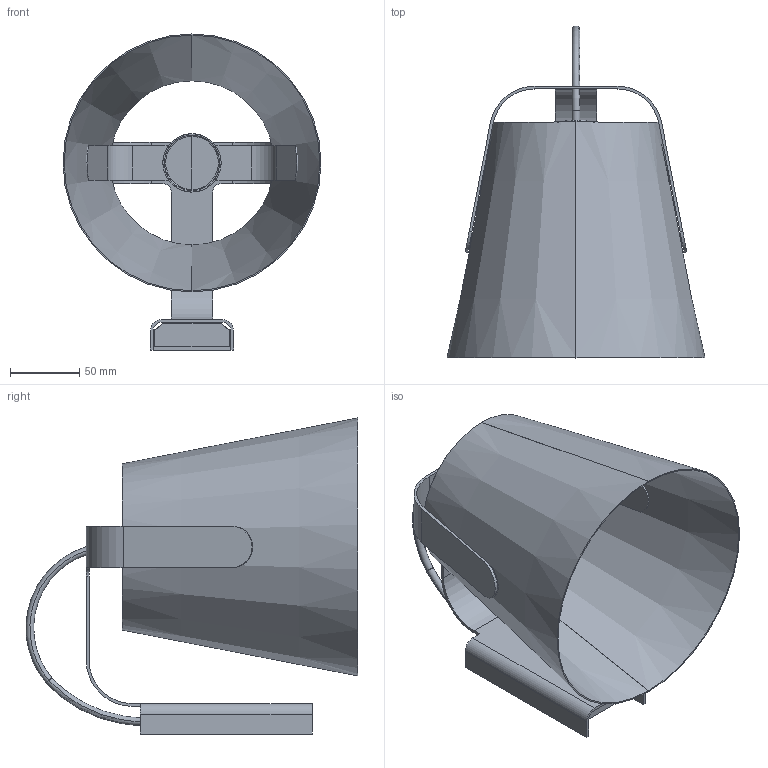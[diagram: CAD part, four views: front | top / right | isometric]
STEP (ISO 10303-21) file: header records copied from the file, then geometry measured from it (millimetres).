
FILE_DESCRIPTION(/* description */ (''),/* implementation_level */ '2;1');
FILE_NAME(/* name */ 'C:\Users\Franco Sartori E\Documents\FARO\DUPLICADO\Modelos\01_Digitalizados\0_STOOD\03_Publicación\29844.stp',/* time_stamp */ '2020-10-27T11:15:55+01:00',/* author */ ('Franco Sartori E'),/* organization */ (''),/* preprocessor_version */ 'ST-DEVELOPER v18.1',/* originating_system */ 'AutoCAD Mechanical',/* authorisation */ '');
FILE_SCHEMA (('AUTOMOTIVE_DESIGN { 1 0 10303 214 3 1 1 }'));
Length unit declared in the file: millimetre
Products named in the file (2): Product; 29844_ - LAMP-455716-Export
Assembly tree (1 placements, depth 2):
  Product
    29844_ - LAMP-455716-Export
Bounding box: 186.09 x 239.46 x 228.04 mm (x, y, z)
Volume: 160031.5 mm3; surface area: 278406.7 mm2
Topology: 8 solids, 8 shells, 140 faces, 351 edges, 226 vertices
Faces by surface type: plane 78, cylinder 48, torus 10, cone 4
Entity records: 5018 total; most frequent: CARTESIAN_POINT 1588, ORIENTED_EDGE 696, DIRECTION 696, EDGE_CURVE 348, AXIS2_PLACEMENT_3D 240, VERTEX_POINT 220, LINE 216, VECTOR 216
